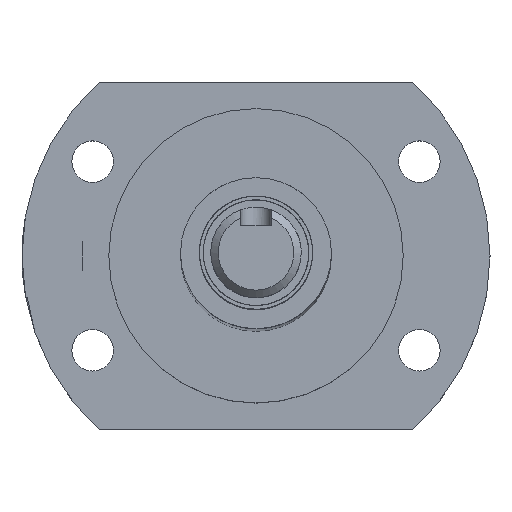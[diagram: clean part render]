
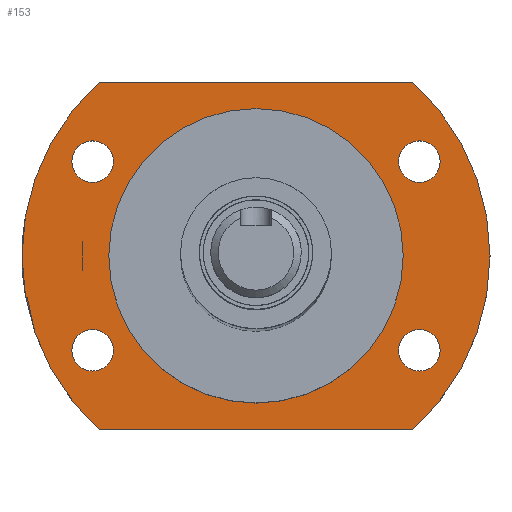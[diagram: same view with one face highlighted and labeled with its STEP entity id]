
A CAD part, top view. The second image highlights one B-rep face of the part: STEP entity #153.
In plain terms, the highlighted planar face has unit normal (0, 0, 1).
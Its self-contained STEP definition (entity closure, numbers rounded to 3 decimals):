
#153=ADVANCED_FACE('',(#384,#385,#386,#387,#388,#389),#220,.T.);
#220=PLANE('',#1145);
#270=LINE('',#1676,#330);
#271=LINE('',#1680,#331);
#330=VECTOR('',#1292,1.);
#331=VECTOR('',#1295,1.);
#384=FACE_BOUND('',#457,.T.);
#385=FACE_BOUND('',#458,.T.);
#386=FACE_BOUND('',#459,.T.);
#387=FACE_BOUND('',#460,.T.);
#388=FACE_BOUND('',#461,.T.);
#389=FACE_BOUND('',#462,.T.);
#457=EDGE_LOOP('',(#585,#586,#587,#588));
#458=EDGE_LOOP('',(#589));
#459=EDGE_LOOP('',(#590));
#460=EDGE_LOOP('',(#591));
#461=EDGE_LOOP('',(#592));
#462=EDGE_LOOP('',(#593));
#585=ORIENTED_EDGE('',*,*,#953,.F.);
#586=ORIENTED_EDGE('',*,*,#954,.F.);
#587=ORIENTED_EDGE('',*,*,#955,.T.);
#588=ORIENTED_EDGE('',*,*,#949,.F.);
#589=ORIENTED_EDGE('',*,*,#956,.T.);
#590=ORIENTED_EDGE('',*,*,#957,.T.);
#591=ORIENTED_EDGE('',*,*,#958,.T.);
#592=ORIENTED_EDGE('',*,*,#959,.T.);
#593=ORIENTED_EDGE('',*,*,#960,.T.);
#848=VERTEX_POINT('',#1609);
#850=VERTEX_POINT('',#1612);
#853=VERTEX_POINT('',#1677);
#854=VERTEX_POINT('',#1679);
#855=VERTEX_POINT('',#1682);
#856=VERTEX_POINT('',#1684);
#857=VERTEX_POINT('',#1686);
#858=VERTEX_POINT('',#1688);
#859=VERTEX_POINT('',#1690);
#949=EDGE_CURVE('',#848,#850,#1074,.T.);
#953=EDGE_CURVE('',#853,#848,#270,.T.);
#954=EDGE_CURVE('',#854,#853,#1076,.T.);
#955=EDGE_CURVE('',#854,#850,#271,.T.);
#956=EDGE_CURVE('',#855,#855,#1077,.T.);
#957=EDGE_CURVE('',#856,#856,#1078,.T.);
#958=EDGE_CURVE('',#857,#857,#1079,.T.);
#959=EDGE_CURVE('',#858,#858,#1080,.T.);
#960=EDGE_CURVE('',#859,#859,#1081,.T.);
#1074=CIRCLE('',#1136,31.);
#1076=CIRCLE('',#1139,31.);
#1077=CIRCLE('',#1140,2.75);
#1078=CIRCLE('',#1141,2.75);
#1079=CIRCLE('',#1142,19.5);
#1080=CIRCLE('',#1143,2.75);
#1081=CIRCLE('',#1144,2.75);
#1136=AXIS2_PLACEMENT_3D('',#1611,#1285,#1286);
#1139=AXIS2_PLACEMENT_3D('',#1678,#1293,#1294);
#1140=AXIS2_PLACEMENT_3D('',#1681,#1296,#1297);
#1141=AXIS2_PLACEMENT_3D('',#1683,#1298,#1299);
#1142=AXIS2_PLACEMENT_3D('',#1685,#1300,#1301);
#1143=AXIS2_PLACEMENT_3D('',#1687,#1302,#1303);
#1144=AXIS2_PLACEMENT_3D('',#1689,#1304,#1305);
#1145=AXIS2_PLACEMENT_3D('',#1691,#1306,#1307);
#1285=DIRECTION('',(0.,0.,-1.));
#1286=DIRECTION('',(1.,0.,0.));
#1292=DIRECTION('',(-1.,0.,0.));
#1293=DIRECTION('',(0.,0.,-1.));
#1294=DIRECTION('',(1.,0.,0.));
#1295=DIRECTION('',(-1.,0.,0.));
#1296=DIRECTION('',(0.,0.,-1.));
#1297=DIRECTION('',(0.866,0.5,0.));
#1298=DIRECTION('',(0.,0.,-1.));
#1299=DIRECTION('',(-0.866,0.5,0.));
#1300=DIRECTION('',(0.,0.,-1.));
#1301=DIRECTION('',(1.,0.,0.));
#1302=DIRECTION('',(0.,0.,-1.));
#1303=DIRECTION('',(0.866,-0.5,0.));
#1304=DIRECTION('',(0.,0.,-1.));
#1305=DIRECTION('',(-0.866,-0.5,0.));
#1306=DIRECTION('',(0.,0.,1.));
#1307=DIRECTION('',(1.,0.,0.));
#1609=CARTESIAN_POINT('',(-20.785,-23.,44.2));
#1611=CARTESIAN_POINT('',(0.,0.,44.2));
#1612=CARTESIAN_POINT('',(-20.785,23.,44.2));
#1676=CARTESIAN_POINT('',(0.,-23.,44.2));
#1677=CARTESIAN_POINT('',(20.785,-23.,44.2));
#1678=CARTESIAN_POINT('',(0.,0.,44.2));
#1679=CARTESIAN_POINT('',(20.785,23.,44.2));
#1680=CARTESIAN_POINT('',(0.,23.,44.2));
#1681=CARTESIAN_POINT('',(-21.651,-12.5,44.2));
#1682=CARTESIAN_POINT('',(-19.269,-11.125,44.2));
#1683=CARTESIAN_POINT('',(21.651,-12.5,44.2));
#1684=CARTESIAN_POINT('',(19.269,-11.125,44.2));
#1685=CARTESIAN_POINT('',(0.,0.,44.2));
#1686=CARTESIAN_POINT('',(19.5,0.,44.2));
#1687=CARTESIAN_POINT('',(-21.651,12.5,44.2));
#1688=CARTESIAN_POINT('',(-19.269,11.125,44.2));
#1689=CARTESIAN_POINT('',(21.651,12.5,44.2));
#1690=CARTESIAN_POINT('',(19.269,11.125,44.2));
#1691=CARTESIAN_POINT('',(0.,0.,44.2));
